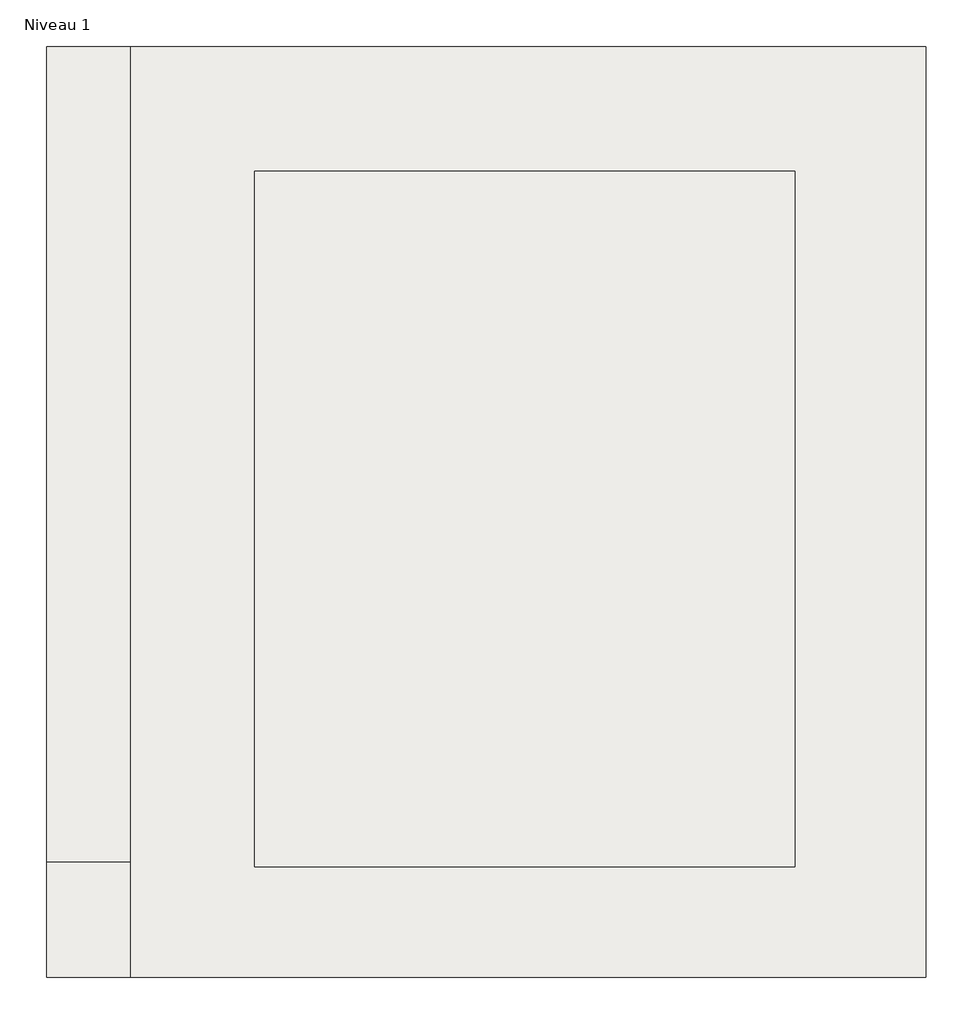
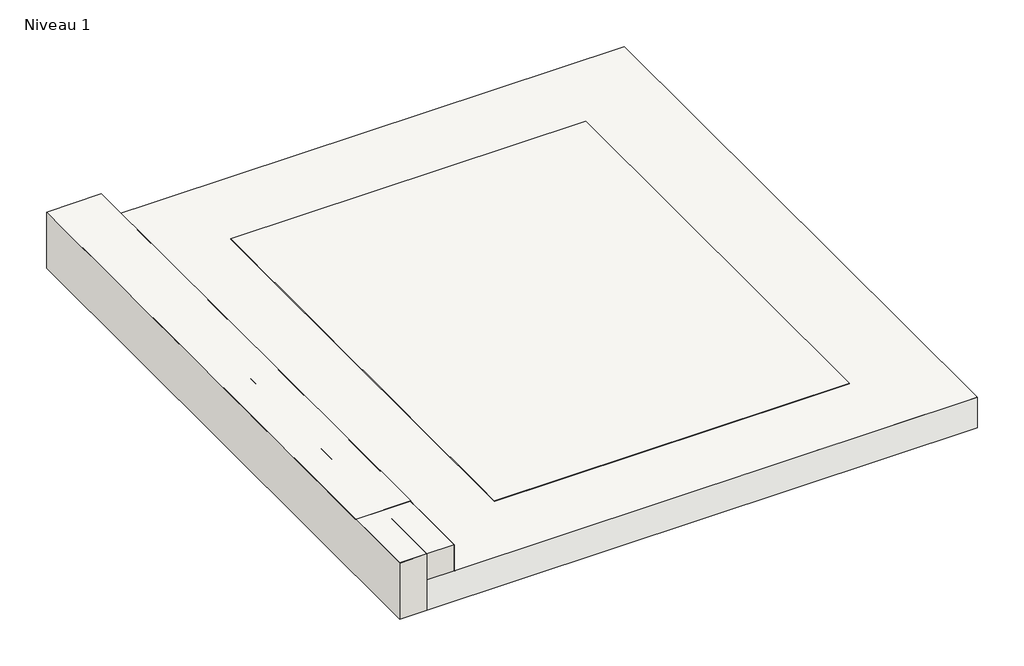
# One storey, incomplete: 5 roofs, 4 walls.
"""IFC4 building model written with IfcOpenShell, lengths in millimetres."""

from ifc_helpers import new_model, si_unit, frame, origin, place, context, project, spatial, polyline, outline, extrude, element, save

model = new_model("IFC4")

# Units and contexts
model_context = context("Model", 3, world=origin())
ifc_project = project(units=[si_unit("LENGTHUNIT", "METRE", prefix="MILLI")], contexts=[model_context])

# Site, building, storey
site = spatial("IfcSite", under=ifc_project)
building = spatial("IfcBuilding", under=site)
storey = spatial("IfcBuildingStorey", under=building, Name="Niveau 1", Elevation=0.0)

# Roofs
placement = place(None, origin())
element("IfcRoof", 1, ObjectType="Membrane RESITRIX EPDM lestée avec végétation extensive", at=placement, inside=storey, context=model_context, shape_type="SweptSolid", body=[
    extrude(outline(polyline([(39627.7553682, 5160.6254592), (39627.7553682, 11875.0869977), (45374.7053682, 11875.0869977), (45374.7053682, 5160.6254592), (39627.7553682, 5160.6254592)])), frame((0.0, 0.0, 135.2), z_axis=(0.0, 0.0, 1.0), x_axis=(1.0, 0.0, 0.0)), (0.0, 0.0, 1.0), 3.1),
])
element("IfcRoof", 2, ObjectType="Membrane RESITRIX SK W Full bond colléé", at=placement, inside=storey, context=model_context, shape_type="SweptSolid", body=[
    extrude(outline(polyline([(39027.7553682, 5994.9528574), (39027.7553682, 11874.9528574), (39631.0553682, 11874.9528574), (39631.0553682, 5994.9528574), (39027.7553682, 5994.9528574)])), frame((0.0, 0.0, 436.0), z_axis=(0.0, 0.0, 1.0), x_axis=(1.0, 0.0, 0.0)), (0.0, 0.0, 1.0), 2.5),
])
element("IfcRoof", 3, ObjectType="Primer d’adhérence FG35", at=placement, inside=storey, context=model_context, shape_type="SweptSolid", body=[
    extrude(outline(polyline([(39027.7553682, 5160.4913189), (39027.7553682, 11874.9528574), (39631.0553682, 11874.9528574), (39631.0553682, 5160.4913189), (39027.7553682, 5160.4913189)])), frame((0.0, 0.0, 435.2), z_axis=(0.0, 0.0, 1.0), x_axis=(1.0, 0.0, 0.0)), (0.0, 0.0, 1.0), 0.8),
])
element("IfcRoof", 4, ObjectType="Végétation", at=placement, inside=storey, context=model_context, shape_type="SweptSolid", body=[
    extrude(outline(polyline([(40529.8053682, 5960.4913189), (40529.8053682, 10975.9528574), (44429.8053682, 10975.9528574), (44429.8053682, 5960.4913189), (40529.8053682, 5960.4913189)])), frame((0.0, 0.0, 138.3), z_axis=(0.0, 0.0, 1.0), x_axis=(1.0, 0.0, 0.0)), (0.0, 0.0, 1.0), 10.0),
])
element("IfcRoof", 5, ObjectType="Toit 1", at=placement, inside=storey, context=model_context, shape_type="SweptSolid", body=[
    extrude(outline(polyline([(39327.7553682, 11875.0869977), (45374.7053682, 11875.0869977), (45374.7053682, 5160.6254592), (39327.7553682, 5160.6254592), (39327.7553682, 11875.0869977)])), frame((0.0, 0.0, -215.6), z_axis=(0.0, 0.0, 1.0), x_axis=(1.0, 0.0, 0.0)), (0.0, 0.0, 1.0), 350.8),
])

# Walls
element("IfcWall", 6, ObjectType="Membrane RESITRIX SK W EPDM Full bond", at=placement, inside=storey, context=model_context, shape_type="SweptSolid", body=[
    extrude(outline(polyline([(39628.5553682, 5954.9528574), (39628.5553682, 11874.9528574), (39631.0553682, 11874.9528574), (39631.0553682, 5954.9528574), (39628.5553682, 5954.9528574)])), frame((0.0, 0.0, 139.1), z_axis=(0.0, 0.0, 1.0), x_axis=(1.0, 0.0, 0.0)), (0.0, 0.0, 1.0), 296.1),
])
element("IfcWall", 7, ObjectType="Primer d’adhérence FG35", at=placement, inside=storey, context=model_context, shape_type="SweptSolid", body=[
    extrude(outline(polyline([(39627.7553682, 5160.4913189), (39627.7553682, 11874.9528574), (39628.5553682, 11874.9528574), (39628.5553682, 5160.4913189), (39627.7553682, 5160.4913189)])), frame((0.0, 0.0, 139.1), z_axis=(0.0, 0.0, 1.0), x_axis=(1.0, 0.0, 0.0)), (0.0, 0.0, 1.0), 296.1),
])
element("IfcWall", 8, ObjectType="Mur 1", at=placement, inside=storey, context=model_context, shape_type="SweptSolid", body=[
    extrude(outline(polyline([(39027.7553682, 5160.6254592), (39027.7553682, 11875.0869977), (39327.7553682, 11875.0869977), (39327.7553682, 5160.6254592), (39027.7553682, 5160.6254592)])), frame((0.0, 0.0, -215.6), z_axis=(0.0, 0.0, 1.0), x_axis=(1.0, 0.0, 0.0)), (0.0, 0.0, 1.0), 650.8),
])
element("IfcWall", 9, ObjectType="Mur 1", at=placement, inside=storey, context=model_context, shape_type="SweptSolid", body=[
    extrude(outline(polyline([(39327.7553682, 5160.6254592), (39327.7553682, 11875.0869977), (39627.7553682, 11875.0869977), (39627.7553682, 5160.6254592), (39327.7553682, 5160.6254592)])), frame((0.0, 0.0, 135.2), z_axis=(0.0, 0.0, 1.0), x_axis=(1.0, 0.0, 0.0)), (0.0, 0.0, 1.0), 300.0),
])

save(model, "model.ifc")
